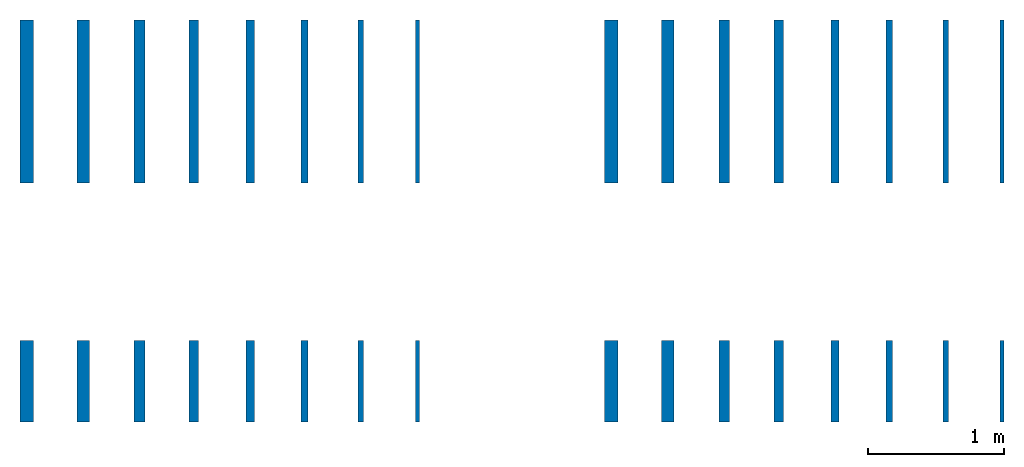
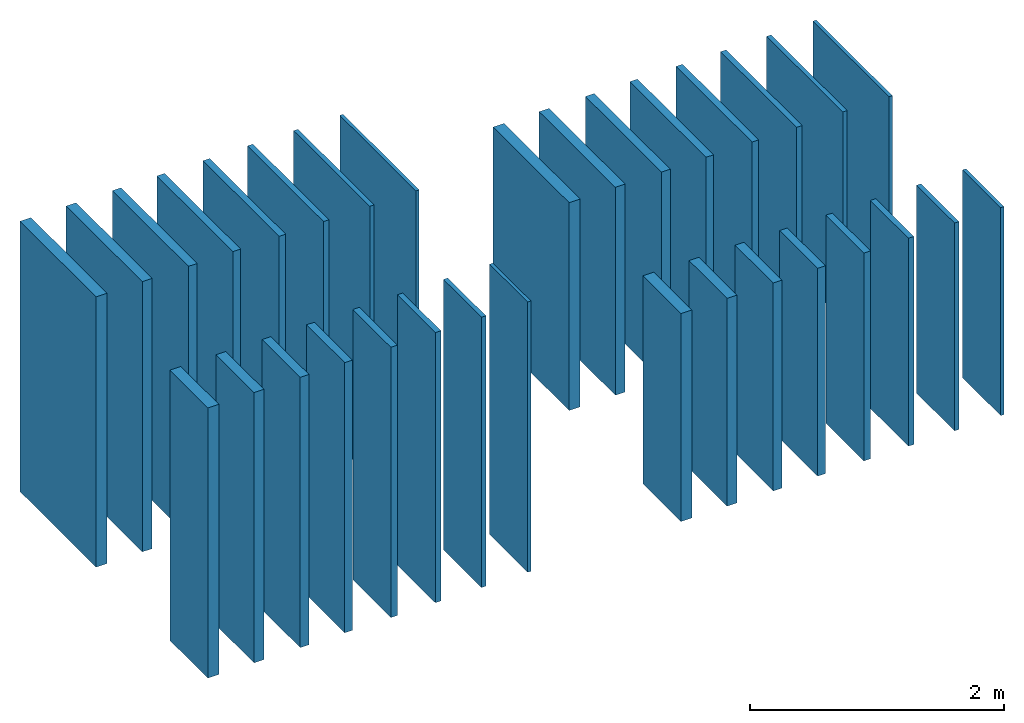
# One storey: 32 walls.
"""IFC2X3 building model written with IfcOpenShell, lengths in metres."""

from ifc_helpers import new_model, entity, si_unit, converted_unit, derived_unit, direction, frame, frame_2d, origin, place, context, subcontext, project, spatial, rectangle, extrude, material, layer, layer_set, layer_usage, type_object, element, save


model = new_model("IFC2X3")

# Units and contexts
model_context = context("Model", 3, precision=1e-05, world=origin(), true_north=direction((6.12303176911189e-17, 1.0)))
body_context = subcontext(model_context, "Body", "Model", "MODEL_VIEW")
ifc_project = project(units=[si_unit("LENGTHUNIT", "METRE"), si_unit("AREAUNIT", "SQUARE_METRE"), si_unit("VOLUMEUNIT", "CUBIC_METRE"), converted_unit("PLANEANGLEUNIT", "DEGREE", entity("IfcRatioMeasure", 0.0174532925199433), si_unit("PLANEANGLEUNIT", "RADIAN"), dimensions=[0, 0, 0, 0, 0, 0, 0]), si_unit("MASSUNIT", "GRAM", prefix="KILO"), derived_unit("MASSDENSITYUNIT", [(si_unit("MASSUNIT", "GRAM", prefix="KILO"), 1), (si_unit("LENGTHUNIT", "METRE"), -3)]), si_unit("TIMEUNIT", "SECOND"), si_unit("FREQUENCYUNIT", "HERTZ"), si_unit("THERMODYNAMICTEMPERATUREUNIT", "DEGREE_CELSIUS"), derived_unit("THERMALTRANSMITTANCEUNIT", [(si_unit("MASSUNIT", "GRAM", prefix="KILO"), 1), (si_unit("THERMODYNAMICTEMPERATUREUNIT", "KELVIN"), -1), (si_unit("TIMEUNIT", "SECOND"), -3)]), derived_unit("VOLUMETRICFLOWRATEUNIT", [(si_unit("LENGTHUNIT", "METRE"), 3), (si_unit("TIMEUNIT", "SECOND"), -1)]), si_unit("ELECTRICCURRENTUNIT", "AMPERE"), si_unit("ELECTRICVOLTAGEUNIT", "VOLT"), si_unit("POWERUNIT", "WATT"), si_unit("FORCEUNIT", "NEWTON", prefix="KILO"), si_unit("ILLUMINANCEUNIT", "LUX"), si_unit("LUMINOUSFLUXUNIT", "LUMEN"), si_unit("LUMINOUSINTENSITYUNIT", "CANDELA"), derived_unit("USERDEFINED", [(si_unit("MASSUNIT", "GRAM", prefix="KILO"), -1), (si_unit("LENGTHUNIT", "METRE"), -2), (si_unit("TIMEUNIT", "SECOND"), 3), (si_unit("LUMINOUSFLUXUNIT", "LUMEN"), 1)]), derived_unit("LINEARVELOCITYUNIT", [(si_unit("LENGTHUNIT", "METRE"), 1), (si_unit("TIMEUNIT", "SECOND"), -1)]), si_unit("PRESSUREUNIT", "PASCAL"), derived_unit("USERDEFINED", [(si_unit("LENGTHUNIT", "METRE"), -2), (si_unit("MASSUNIT", "GRAM", prefix="KILO"), 1), (si_unit("TIMEUNIT", "SECOND"), -2)])], contexts=[model_context])

# Site, building, storey
site_placement = place(None, origin())
site = spatial("IfcSite", under=ifc_project, at=site_placement, Name="Default", CompositionType="ELEMENT")
building_placement = place(site_placement, origin())
building = spatial("IfcBuilding", under=site, at=building_placement, CompositionType="ELEMENT")
storey_placement = place(building_placement, origin())
storey = spatial("IfcBuildingStorey", under=building, at=storey_placement, Name="Nivel 1", CompositionType="ELEMENT", Elevation=0.0)

# Walls
ifc_material = material(Name="VALERO Grafipol® TR-31")
ifc_layer_1 = layer(ifc_material, 0.1)
ifc_layer_set_1 = layer_set([ifc_layer_1], Name="Muro básico:Grafipol TR-31_2000x600x100mm")
ifc_layer_usage_1 = layer_usage(ifc_layer_set_1, "AXIS2", "NEGATIVE", 0.05)
wall_type_1 = type_object("IfcWallType", Name="Muro básico:Grafipol TR-31_2000x600x100mm", PredefinedType="STANDARD", material=ifc_layer_set_1)
wall_1_placement = place(storey_placement, frame((-0.269987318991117, 0.176603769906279, 0.0), z_axis=(0.0, 0.0, 1.0), x_axis=(0.0, 1.0, 0.0)))
element("IfcWallStandardCase", 1, at=wall_1_placement, inside=storey, type_object=wall_type_1, material=ifc_layer_usage_1, Name="Muro básico:Grafipol TR-31_2000x600x100mm", ObjectType="Muro básico:Grafipol TR-31_2000x600x100mm", context=body_context, shape_type="SweptSolid", body=[
    extrude(rectangle(XDim=0.6, YDim=0.1, at=frame_2d((0.3, 1.04083408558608e-17), x_axis=(-1.0, 0.0))), origin(), (0.0, 0.0, 1.0), 2.0),
])
ifc_layer_2 = layer(ifc_material, 0.09)
ifc_layer_set_2 = layer_set([ifc_layer_2], Name="Muro básico:Grafipol TR-31_2000x600x90mm")
ifc_layer_usage_2 = layer_usage(ifc_layer_set_2, "AXIS2", "NEGATIVE", 0.045)
wall_type_2 = type_object("IfcWallType", Name="Muro básico:Grafipol TR-31_2000x600x90mm", PredefinedType="STANDARD", material=ifc_layer_set_2)
wall_2_placement = place(storey_placement, frame((0.145012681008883, 0.176603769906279, 0.0), z_axis=(0.0, 0.0, 1.0), x_axis=(0.0, 1.0, 0.0)))
element("IfcWallStandardCase", 2, at=wall_2_placement, inside=storey, type_object=wall_type_2, material=ifc_layer_usage_2, Name="Muro básico:Grafipol TR-31_2000x600x90mm", ObjectType="Muro básico:Grafipol TR-31_2000x600x90mm", context=body_context, shape_type="SweptSolid", body=[
    extrude(rectangle(XDim=0.6, YDim=0.09, at=frame_2d((0.3, 0.0), x_axis=(-1.0, 0.0))), origin(), (0.0, 0.0, 1.0), 2.0),
])
ifc_layer_3 = layer(ifc_material, 0.08)
ifc_layer_set_3 = layer_set([ifc_layer_3], Name="Muro básico:Grafipol TR-31_2000x600x80mm")
ifc_layer_usage_3 = layer_usage(ifc_layer_set_3, "AXIS2", "NEGATIVE", 0.04)
wall_type_3 = type_object("IfcWallType", Name="Muro básico:Grafipol TR-31_2000x600x80mm", PredefinedType="STANDARD", material=ifc_layer_set_3)
wall_3_placement = place(storey_placement, frame((0.560012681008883, 0.176603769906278, 0.0), z_axis=(0.0, 0.0, 1.0), x_axis=(0.0, 1.0, 0.0)))
element("IfcWallStandardCase", 3, at=wall_3_placement, inside=storey, type_object=wall_type_3, material=ifc_layer_usage_3, Name="Muro básico:Grafipol TR-31_2000x600x80mm", ObjectType="Muro básico:Grafipol TR-31_2000x600x80mm", context=body_context, shape_type="SweptSolid", body=[
    extrude(rectangle(XDim=0.6, YDim=0.08, at=frame_2d((0.3, -6.93889390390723e-18), x_axis=(-1.0, 0.0))), origin(), (0.0, 0.0, 1.0), 2.0),
])
ifc_layer_4 = layer(ifc_material, 0.07)
ifc_layer_set_4 = layer_set([ifc_layer_4], Name="Muro básico:Grafipol TR-31_2000x600x70mm")
ifc_layer_usage_4 = layer_usage(ifc_layer_set_4, "AXIS2", "NEGATIVE", 0.035)
wall_type_4 = type_object("IfcWallType", Name="Muro básico:Grafipol TR-31_2000x600x70mm", PredefinedType="STANDARD", material=ifc_layer_set_4)
wall_4_placement = place(storey_placement, frame((0.960012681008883, 0.176603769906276, 0.0), z_axis=(0.0, 0.0, 1.0), x_axis=(0.0, 1.0, 0.0)))
element("IfcWallStandardCase", 4, at=wall_4_placement, inside=storey, type_object=wall_type_4, material=ifc_layer_usage_4, Name="Muro básico:Grafipol TR-31_2000x600x70mm", ObjectType="Muro básico:Grafipol TR-31_2000x600x70mm", context=body_context, shape_type="SweptSolid", body=[
    extrude(rectangle(XDim=0.6, YDim=0.0700000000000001, at=frame_2d((0.3, -6.93889390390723e-18), x_axis=(-1.0, 0.0))), origin(), (0.0, 0.0, 1.0), 2.0),
])
ifc_layer_5 = layer(ifc_material, 0.06)
ifc_layer_set_5 = layer_set([ifc_layer_5], Name="Muro básico:Grafipol TR-31_2000x600x60mm")
ifc_layer_usage_5 = layer_usage(ifc_layer_set_5, "AXIS2", "NEGATIVE", 0.03)
wall_type_5 = type_object("IfcWallType", Name="Muro básico:Grafipol TR-31_2000x600x60mm", PredefinedType="STANDARD", material=ifc_layer_set_5)
wall_5_placement = place(storey_placement, frame((1.37501268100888, 0.176603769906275, 0.0), z_axis=(0.0, 0.0, 1.0), x_axis=(0.0, 1.0, 0.0)))
element("IfcWallStandardCase", 5, at=wall_5_placement, inside=storey, type_object=wall_type_5, material=ifc_layer_usage_5, Name="Muro básico:Grafipol TR-31_2000x600x60mm", ObjectType="Muro básico:Grafipol TR-31_2000x600x60mm", context=body_context, shape_type="SweptSolid", body=[
    extrude(rectangle(XDim=0.6, YDim=0.0599999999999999, at=frame_2d((0.3, -7.28583859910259e-17), x_axis=(-1.0, 0.0))), origin(), (0.0, 0.0, 1.0), 2.0),
])
ifc_layer_6 = layer(ifc_material, 0.05)
ifc_layer_set_6 = layer_set([ifc_layer_6], Name="Muro básico:Grafipol TR-31_2000x600x50mm")
ifc_layer_usage_6 = layer_usage(ifc_layer_set_6, "AXIS2", "NEGATIVE", 0.025)
wall_type_6 = type_object("IfcWallType", Name="Muro básico:Grafipol TR-31_2000x600x50mm", PredefinedType="STANDARD", material=ifc_layer_set_6)
wall_6_placement = place(storey_placement, frame((1.77501268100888, 0.176603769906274, 0.0), z_axis=(0.0, 0.0, 1.0), x_axis=(0.0, 1.0, 0.0)))
element("IfcWallStandardCase", 6, at=wall_6_placement, inside=storey, type_object=wall_type_6, material=ifc_layer_usage_6, Name="Muro básico:Grafipol TR-31_2000x600x50mm", ObjectType="Muro básico:Grafipol TR-31_2000x600x50mm", context=body_context, shape_type="SweptSolid", body=[
    extrude(rectangle(XDim=0.6, YDim=0.05, at=frame_2d((0.3, -7.45931094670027e-17), x_axis=(-1.0, 0.0))), origin(), (0.0, 0.0, 1.0), 2.0),
])
ifc_layer_7 = layer(ifc_material, 0.04)
ifc_layer_set_7 = layer_set([ifc_layer_7], Name="Muro básico:Grafipol TR-31_2000x600x40mm")
ifc_layer_usage_7 = layer_usage(ifc_layer_set_7, "AXIS2", "NEGATIVE", 0.02)
wall_type_7 = type_object("IfcWallType", Name="Muro básico:Grafipol TR-31_2000x600x40mm", PredefinedType="STANDARD", material=ifc_layer_set_7)
wall_7_placement = place(storey_placement, frame((2.19001268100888, 0.176603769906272, 0.0), z_axis=(0.0, 0.0, 1.0), x_axis=(0.0, 1.0, 0.0)))
element("IfcWallStandardCase", 7, at=wall_7_placement, inside=storey, type_object=wall_type_7, material=ifc_layer_usage_7, Name="Muro básico:Grafipol TR-31_2000x600x40mm", ObjectType="Muro básico:Grafipol TR-31_2000x600x40mm", context=body_context, shape_type="SweptSolid", body=[
    extrude(rectangle(XDim=0.6, YDim=0.0400000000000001, at=frame_2d((0.3, -7.45931094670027e-17), x_axis=(-1.0, 0.0))), origin(), (0.0, 0.0, 1.0), 2.0),
])
ifc_layer_8 = layer(ifc_material, 0.03)
ifc_layer_set_8 = layer_set([ifc_layer_8], Name="Muro básico:Grafipol TR-31_2000x600x30mm")
ifc_layer_usage_8 = layer_usage(ifc_layer_set_8, "AXIS2", "NEGATIVE", 0.015)
wall_type_8 = type_object("IfcWallType", Name="Muro básico:Grafipol TR-31_2000x600x30mm", PredefinedType="STANDARD", material=ifc_layer_set_8)
wall_8_placement = place(storey_placement, frame((2.60501268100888, 0.176603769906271, 0.0), z_axis=(0.0, 0.0, 1.0), x_axis=(0.0, 1.0, 0.0)))
element("IfcWallStandardCase", 8, at=wall_8_placement, inside=storey, type_object=wall_type_8, material=ifc_layer_usage_8, Name="Muro básico:Grafipol TR-31_2000x600x30mm", ObjectType="Muro básico:Grafipol TR-31_2000x600x30mm", context=body_context, shape_type="SweptSolid", body=[
    extrude(rectangle(XDim=0.6, YDim=0.0299999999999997, at=frame_2d((0.3, -7.45931094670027e-17), x_axis=(-1.0, 0.0))), origin(), (0.0, 0.0, 1.0), 2.0),
])
ifc_layer_9 = layer(ifc_material, 0.1)
ifc_layer_set_9 = layer_set([ifc_layer_9], Name="Muro básico:Grafipol TR-31_2600x600x100mm")
ifc_layer_usage_9 = layer_usage(ifc_layer_set_9, "AXIS2", "NEGATIVE", 0.05)
wall_type_9 = type_object("IfcWallType", Name="Muro básico:Grafipol TR-31_2600x600x100mm", PredefinedType="STANDARD", material=ifc_layer_set_9)
wall_9_placement = place(storey_placement, frame((-4.57440857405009, 0.176603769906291, 0.0), z_axis=(0.0, 0.0, 1.0), x_axis=(0.0, 1.0, 0.0)))
element("IfcWallStandardCase", 9, at=wall_9_placement, inside=storey, type_object=wall_type_9, material=ifc_layer_usage_9, Name="Muro básico:Grafipol TR-31_2600x600x100mm", ObjectType="Muro básico:Grafipol TR-31_2600x600x100mm", context=body_context, shape_type="SweptSolid", body=[
    extrude(rectangle(XDim=0.6, YDim=0.1, at=frame_2d((0.3, -7.63278329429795e-17), x_axis=(-1.0, 0.0))), origin(), (0.0, 0.0, 1.0), 2.6),
])
ifc_layer_10 = layer(ifc_material, 0.09)
ifc_layer_set_10 = layer_set([ifc_layer_10], Name="Muro básico:Grafipol TR-31_2600x600x90mm")
ifc_layer_usage_10 = layer_usage(ifc_layer_set_10, "AXIS2", "NEGATIVE", 0.045)
wall_type_10 = type_object("IfcWallType", Name="Muro básico:Grafipol TR-31_2600x600x90mm", PredefinedType="STANDARD", material=ifc_layer_set_10)
wall_10_placement = place(storey_placement, frame((-4.15940857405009, 0.176603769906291, 0.0), z_axis=(0.0, 0.0, 1.0), x_axis=(0.0, 1.0, 0.0)))
element("IfcWallStandardCase", 10, at=wall_10_placement, inside=storey, type_object=wall_type_10, material=ifc_layer_usage_10, Name="Muro básico:Grafipol TR-31_2600x600x90mm", ObjectType="Muro básico:Grafipol TR-31_2600x600x90mm", context=body_context, shape_type="SweptSolid", body=[
    extrude(rectangle(XDim=0.6, YDim=0.0900000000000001, at=frame_2d((0.3, -7.63278329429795e-17), x_axis=(-1.0, 0.0))), origin(), (0.0, 0.0, 1.0), 2.6),
])
ifc_layer_11 = layer(ifc_material, 0.08)
ifc_layer_set_11 = layer_set([ifc_layer_11], Name="Muro básico:Grafipol TR-31_2600x600x80mm")
ifc_layer_usage_11 = layer_usage(ifc_layer_set_11, "AXIS2", "NEGATIVE", 0.04)
wall_type_11 = type_object("IfcWallType", Name="Muro básico:Grafipol TR-31_2600x600x80mm", PredefinedType="STANDARD", material=ifc_layer_set_11)
wall_11_placement = place(storey_placement, frame((-3.74440857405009, 0.17660376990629, 0.0), z_axis=(0.0, 0.0, 1.0), x_axis=(0.0, 1.0, 0.0)))
element("IfcWallStandardCase", 11, at=wall_11_placement, inside=storey, type_object=wall_type_11, material=ifc_layer_usage_11, Name="Muro básico:Grafipol TR-31_2600x600x80mm", ObjectType="Muro básico:Grafipol TR-31_2600x600x80mm", context=body_context, shape_type="SweptSolid", body=[
    extrude(rectangle(XDim=0.6, YDim=0.0800000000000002, at=frame_2d((0.3, -7.63278329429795e-17), x_axis=(-1.0, 0.0))), origin(), (0.0, 0.0, 1.0), 2.6),
])
ifc_layer_12 = layer(ifc_material, 0.07)
ifc_layer_set_12 = layer_set([ifc_layer_12], Name="Muro básico:Grafipol TR-31_2600x600x70mm")
ifc_layer_usage_12 = layer_usage(ifc_layer_set_12, "AXIS2", "NEGATIVE", 0.035)
wall_type_12 = type_object("IfcWallType", Name="Muro básico:Grafipol TR-31_2600x600x70mm", PredefinedType="STANDARD", material=ifc_layer_set_12)
wall_12_placement = place(storey_placement, frame((-3.34440857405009, 0.176603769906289, 0.0), z_axis=(0.0, 0.0, 1.0), x_axis=(0.0, 1.0, 0.0)))
element("IfcWallStandardCase", 12, at=wall_12_placement, inside=storey, type_object=wall_type_12, material=ifc_layer_usage_12, Name="Muro básico:Grafipol TR-31_2600x600x70mm", ObjectType="Muro básico:Grafipol TR-31_2600x600x70mm", context=body_context, shape_type="SweptSolid", body=[
    extrude(rectangle(XDim=0.6, YDim=0.0700000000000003, at=frame_2d((0.3, -7.28583859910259e-17), x_axis=(-1.0, 0.0))), origin(), (0.0, 0.0, 1.0), 2.6),
])
ifc_layer_13 = layer(ifc_material, 0.06)
ifc_layer_set_13 = layer_set([ifc_layer_13], Name="Muro básico:Grafipol TR-31_2600x600x60mm")
ifc_layer_usage_13 = layer_usage(ifc_layer_set_13, "AXIS2", "NEGATIVE", 0.03)
wall_type_13 = type_object("IfcWallType", Name="Muro básico:Grafipol TR-31_2600x600x60mm", PredefinedType="STANDARD", material=ifc_layer_set_13)
wall_13_placement = place(storey_placement, frame((-2.92940857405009, 0.176603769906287, 0.0), z_axis=(0.0, 0.0, 1.0), x_axis=(0.0, 1.0, 0.0)))
element("IfcWallStandardCase", 13, at=wall_13_placement, inside=storey, type_object=wall_type_13, material=ifc_layer_usage_13, Name="Muro básico:Grafipol TR-31_2600x600x60mm", ObjectType="Muro básico:Grafipol TR-31_2600x600x60mm", context=body_context, shape_type="SweptSolid", body=[
    extrude(rectangle(XDim=0.6, YDim=0.0600000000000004, at=frame_2d((0.3, -7.28583859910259e-17), x_axis=(-1.0, 0.0))), origin(), (0.0, 0.0, 1.0), 2.6),
])
ifc_layer_14 = layer(ifc_material, 0.05)
ifc_layer_set_14 = layer_set([ifc_layer_14], Name="Muro básico:Grafipol TR-31_2600x600x50mm")
ifc_layer_usage_14 = layer_usage(ifc_layer_set_14, "AXIS2", "NEGATIVE", 0.025)
wall_type_14 = type_object("IfcWallType", Name="Muro básico:Grafipol TR-31_2600x600x50mm", PredefinedType="STANDARD", material=ifc_layer_set_14)
wall_14_placement = place(storey_placement, frame((-2.52940857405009, 0.176603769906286, 0.0), z_axis=(0.0, 0.0, 1.0), x_axis=(0.0, 1.0, 0.0)))
element("IfcWallStandardCase", 14, at=wall_14_placement, inside=storey, type_object=wall_type_14, material=ifc_layer_usage_14, Name="Muro básico:Grafipol TR-31_2600x600x50mm", ObjectType="Muro básico:Grafipol TR-31_2600x600x50mm", context=body_context, shape_type="SweptSolid", body=[
    extrude(rectangle(XDim=0.6, YDim=0.0500000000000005, at=frame_2d((0.3, -7.28583859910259e-17), x_axis=(-1.0, 0.0))), origin(), (0.0, 0.0, 1.0), 2.6),
])
ifc_layer_15 = layer(ifc_material, 0.04)
ifc_layer_set_15 = layer_set([ifc_layer_15], Name="Muro básico:Grafipol TR-31_2600x600x40mm")
ifc_layer_usage_15 = layer_usage(ifc_layer_set_15, "AXIS2", "NEGATIVE", 0.02)
wall_type_15 = type_object("IfcWallType", Name="Muro básico:Grafipol TR-31_2600x600x40mm", PredefinedType="STANDARD", material=ifc_layer_set_15)
wall_15_placement = place(storey_placement, frame((-2.11440857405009, 0.176603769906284, 0.0), z_axis=(0.0, 0.0, 1.0), x_axis=(0.0, 1.0, 0.0)))
element("IfcWallStandardCase", 15, at=wall_15_placement, inside=storey, type_object=wall_type_15, material=ifc_layer_usage_15, Name="Muro básico:Grafipol TR-31_2600x600x40mm", ObjectType="Muro básico:Grafipol TR-31_2600x600x40mm", context=body_context, shape_type="SweptSolid", body=[
    extrude(rectangle(XDim=0.6, YDim=0.0400000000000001, at=frame_2d((0.3, -7.45931094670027e-17), x_axis=(-1.0, 0.0))), origin(), (0.0, 0.0, 1.0), 2.6),
])
ifc_layer_16 = layer(ifc_material, 0.03)
ifc_layer_set_16 = layer_set([ifc_layer_16], Name="Muro básico:Grafipol TR-31_2600x600x30mm")
ifc_layer_usage_16 = layer_usage(ifc_layer_set_16, "AXIS2", "NEGATIVE", 0.015)
wall_type_16 = type_object("IfcWallType", Name="Muro básico:Grafipol TR-31_2600x600x30mm", PredefinedType="STANDARD", material=ifc_layer_set_16)
wall_16_placement = place(storey_placement, frame((-1.69940857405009, 0.176603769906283, 0.0), z_axis=(0.0, 0.0, 1.0), x_axis=(0.0, 1.0, 0.0)))
element("IfcWallStandardCase", 16, at=wall_16_placement, inside=storey, type_object=wall_type_16, material=ifc_layer_usage_16, Name="Muro básico:Grafipol TR-31_2600x600x30mm", ObjectType="Muro básico:Grafipol TR-31_2600x600x30mm", context=body_context, shape_type="SweptSolid", body=[
    extrude(rectangle(XDim=0.6, YDim=0.0300000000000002, at=frame_2d((0.3, -7.45931094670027e-17), x_axis=(-1.0, 0.0))), origin(), (0.0, 0.0, 1.0), 2.6),
])
ifc_layer_17 = layer(ifc_material, 0.1)
ifc_layer_set_17 = layer_set([ifc_layer_17], Name="Muro básico:Grafipol TR-31_2000x1200x100mm")
ifc_layer_usage_17 = layer_usage(ifc_layer_set_17, "AXIS2", "NEGATIVE", 0.05)
wall_type_17 = type_object("IfcWallType", Name="Muro básico:Grafipol TR-31_2000x1200x100mm", PredefinedType="STANDARD", material=ifc_layer_set_17)
wall_17_placement = place(storey_placement, frame((-0.269987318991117, 1.93757096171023, 0.0), z_axis=(0.0, 0.0, 1.0), x_axis=(0.0, 1.0, 0.0)))
element("IfcWallStandardCase", 17, at=wall_17_placement, inside=storey, type_object=wall_type_17, material=ifc_layer_usage_17, Name="Muro básico:Grafipol TR-31_2000x1200x100mm", ObjectType="Muro básico:Grafipol TR-31_2000x1200x100mm", context=body_context, shape_type="SweptSolid", body=[
    extrude(rectangle(XDim=1.2, YDim=0.1, at=frame_2d((0.6, -1.04083408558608e-17), x_axis=(-1.0, 0.0))), origin(), (0.0, 0.0, 1.0), 2.0),
])
ifc_layer_18 = layer(ifc_material, 0.09)
ifc_layer_set_18 = layer_set([ifc_layer_18], Name="Muro básico:Grafipol TR-31_2000x1200x90mm")
ifc_layer_usage_18 = layer_usage(ifc_layer_set_18, "AXIS2", "NEGATIVE", 0.045)
wall_type_18 = type_object("IfcWallType", Name="Muro básico:Grafipol TR-31_2000x1200x90mm", PredefinedType="STANDARD", material=ifc_layer_set_18)
wall_18_placement = place(storey_placement, frame((0.145012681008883, 1.93757096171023, 0.0), z_axis=(0.0, 0.0, 1.0), x_axis=(0.0, 1.0, 0.0)))
element("IfcWallStandardCase", 18, at=wall_18_placement, inside=storey, type_object=wall_type_18, material=ifc_layer_usage_18, Name="Muro básico:Grafipol TR-31_2000x1200x90mm", ObjectType="Muro básico:Grafipol TR-31_2000x1200x90mm", context=body_context, shape_type="SweptSolid", body=[
    extrude(rectangle(XDim=1.2, YDim=0.09, at=frame_2d((0.6, 3.46944695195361e-18), x_axis=(-1.0, 0.0))), origin(), (0.0, 0.0, 1.0), 2.0),
])
ifc_layer_19 = layer(ifc_material, 0.08)
ifc_layer_set_19 = layer_set([ifc_layer_19], Name="Muro básico:Grafipol TR-31_2000x1200x80mm")
ifc_layer_usage_19 = layer_usage(ifc_layer_set_19, "AXIS2", "NEGATIVE", 0.04)
wall_type_19 = type_object("IfcWallType", Name="Muro básico:Grafipol TR-31_2000x1200x80mm", PredefinedType="STANDARD", material=ifc_layer_set_19)
wall_19_placement = place(storey_placement, frame((0.560012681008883, 1.93757096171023, 0.0), z_axis=(0.0, 0.0, 1.0), x_axis=(0.0, 1.0, 0.0)))
element("IfcWallStandardCase", 19, at=wall_19_placement, inside=storey, type_object=wall_type_19, material=ifc_layer_usage_19, Name="Muro básico:Grafipol TR-31_2000x1200x80mm", ObjectType="Muro básico:Grafipol TR-31_2000x1200x80mm", context=body_context, shape_type="SweptSolid", body=[
    extrude(rectangle(XDim=1.2, YDim=0.08, at=frame_2d((0.6, -1.04083408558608e-17), x_axis=(-1.0, 0.0))), origin(), (0.0, 0.0, 1.0), 2.0),
])
ifc_layer_20 = layer(ifc_material, 0.07)
ifc_layer_set_20 = layer_set([ifc_layer_20], Name="Muro básico:Grafipol TR-31_2000x1200x70mm")
ifc_layer_usage_20 = layer_usage(ifc_layer_set_20, "AXIS2", "NEGATIVE", 0.035)
wall_type_20 = type_object("IfcWallType", Name="Muro básico:Grafipol TR-31_2000x1200x70mm", PredefinedType="STANDARD", material=ifc_layer_set_20)
wall_20_placement = place(storey_placement, frame((0.960012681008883, 1.93757096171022, 0.0), z_axis=(0.0, 0.0, 1.0), x_axis=(0.0, 1.0, 0.0)))
element("IfcWallStandardCase", 20, at=wall_20_placement, inside=storey, type_object=wall_type_20, material=ifc_layer_usage_20, Name="Muro básico:Grafipol TR-31_2000x1200x70mm", ObjectType="Muro básico:Grafipol TR-31_2000x1200x70mm", context=body_context, shape_type="SweptSolid", body=[
    extrude(rectangle(XDim=1.2, YDim=0.0700000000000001, at=frame_2d((0.6, -1.38777878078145e-17), x_axis=(-1.0, 0.0))), origin(), (0.0, 0.0, 1.0), 2.0),
])
ifc_layer_21 = layer(ifc_material, 0.06)
ifc_layer_set_21 = layer_set([ifc_layer_21], Name="Muro básico:Grafipol TR-31_2000x1200x60mm")
ifc_layer_usage_21 = layer_usage(ifc_layer_set_21, "AXIS2", "NEGATIVE", 0.03)
wall_type_21 = type_object("IfcWallType", Name="Muro básico:Grafipol TR-31_2000x1200x60mm", PredefinedType="STANDARD", material=ifc_layer_set_21)
wall_21_placement = place(storey_placement, frame((1.37501268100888, 1.93757096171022, 0.0), z_axis=(0.0, 0.0, 1.0), x_axis=(0.0, 1.0, 0.0)))
element("IfcWallStandardCase", 21, at=wall_21_placement, inside=storey, type_object=wall_type_21, material=ifc_layer_usage_21, Name="Muro básico:Grafipol TR-31_2000x1200x60mm", ObjectType="Muro básico:Grafipol TR-31_2000x1200x60mm", context=body_context, shape_type="SweptSolid", body=[
    extrude(rectangle(XDim=1.2, YDim=0.0599999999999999, at=frame_2d((0.6, -1.38777878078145e-17), x_axis=(-1.0, 0.0))), origin(), (0.0, 0.0, 1.0), 2.0),
])
ifc_layer_22 = layer(ifc_material, 0.05)
ifc_layer_set_22 = layer_set([ifc_layer_22], Name="Muro básico:Grafipol TR-31_2000x1200x50mm")
ifc_layer_usage_22 = layer_usage(ifc_layer_set_22, "AXIS2", "NEGATIVE", 0.025)
wall_type_22 = type_object("IfcWallType", Name="Muro básico:Grafipol TR-31_2000x1200x50mm", PredefinedType="STANDARD", material=ifc_layer_set_22)
wall_22_placement = place(storey_placement, frame((1.77501268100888, 1.93757096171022, 0.0), z_axis=(0.0, 0.0, 1.0), x_axis=(0.0, 1.0, 0.0)))
element("IfcWallStandardCase", 22, at=wall_22_placement, inside=storey, type_object=wall_type_22, material=ifc_layer_usage_22, Name="Muro básico:Grafipol TR-31_2000x1200x50mm", ObjectType="Muro básico:Grafipol TR-31_2000x1200x50mm", context=body_context, shape_type="SweptSolid", body=[
    extrude(rectangle(XDim=1.2, YDim=0.05, at=frame_2d((0.6, -1.38777878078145e-17), x_axis=(-1.0, 0.0))), origin(), (0.0, 0.0, 1.0), 2.0),
])
ifc_layer_23 = layer(ifc_material, 0.04)
ifc_layer_set_23 = layer_set([ifc_layer_23], Name="Muro básico:Grafipol TR-31_2000x1200x40mm")
ifc_layer_usage_23 = layer_usage(ifc_layer_set_23, "AXIS2", "NEGATIVE", 0.02)
wall_type_23 = type_object("IfcWallType", Name="Muro básico:Grafipol TR-31_2000x1200x40mm", PredefinedType="STANDARD", material=ifc_layer_set_23)
wall_23_placement = place(storey_placement, frame((2.19001268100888, 1.93757096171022, 0.0), z_axis=(0.0, 0.0, 1.0), x_axis=(0.0, 1.0, 0.0)))
element("IfcWallStandardCase", 23, at=wall_23_placement, inside=storey, type_object=wall_type_23, material=ifc_layer_usage_23, Name="Muro básico:Grafipol TR-31_2000x1200x40mm", ObjectType="Muro básico:Grafipol TR-31_2000x1200x40mm", context=body_context, shape_type="SweptSolid", body=[
    extrude(rectangle(XDim=1.2, YDim=0.0400000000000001, at=frame_2d((0.6, -1.56125112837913e-17), x_axis=(-1.0, 0.0))), origin(), (0.0, 0.0, 1.0), 2.0),
])
ifc_layer_24 = layer(ifc_material, 0.03)
ifc_layer_set_24 = layer_set([ifc_layer_24], Name="Muro básico:Grafipol TR-31_2000x1200x30mm")
ifc_layer_usage_24 = layer_usage(ifc_layer_set_24, "AXIS2", "NEGATIVE", 0.015)
wall_type_24 = type_object("IfcWallType", Name="Muro básico:Grafipol TR-31_2000x1200x30mm", PredefinedType="STANDARD", material=ifc_layer_set_24)
wall_24_placement = place(storey_placement, frame((2.60501268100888, 1.93757096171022, 0.0), z_axis=(0.0, 0.0, 1.0), x_axis=(0.0, 1.0, 0.0)))
element("IfcWallStandardCase", 24, at=wall_24_placement, inside=storey, type_object=wall_type_24, material=ifc_layer_usage_24, Name="Muro básico:Grafipol TR-31_2000x1200x30mm", ObjectType="Muro básico:Grafipol TR-31_2000x1200x30mm", context=body_context, shape_type="SweptSolid", body=[
    extrude(rectangle(XDim=1.2, YDim=0.0299999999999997, at=frame_2d((0.6, -1.50053580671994e-16), x_axis=(-1.0, 0.0))), origin(), (0.0, 0.0, 1.0), 2.0),
])
ifc_layer_25 = layer(ifc_material, 0.1)
ifc_layer_set_25 = layer_set([ifc_layer_25], Name="Muro básico:Grafipol TR-31_2600x1200x100mm")
ifc_layer_usage_25 = layer_usage(ifc_layer_set_25, "AXIS2", "NEGATIVE", 0.05)
wall_type_25 = type_object("IfcWallType", Name="Muro básico:Grafipol TR-31_2600x1200x100mm", PredefinedType="STANDARD", material=ifc_layer_set_25)
wall_25_placement = place(storey_placement, frame((-4.57440857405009, 1.93757096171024, 0.0), z_axis=(0.0, 0.0, 1.0), x_axis=(0.0, 1.0, 0.0)))
element("IfcWallStandardCase", 25, at=wall_25_placement, inside=storey, type_object=wall_type_25, material=ifc_layer_usage_25, Name="Muro básico:Grafipol TR-31_2600x1200x100mm", ObjectType="Muro básico:Grafipol TR-31_2600x1200x100mm", context=body_context, shape_type="SweptSolid", body=[
    extrude(rectangle(XDim=1.2, YDim=0.1, at=frame_2d((0.6, -1.49186218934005e-16), x_axis=(-1.0, 0.0))), origin(), (0.0, 0.0, 1.0), 2.6),
])
ifc_layer_26 = layer(ifc_material, 0.09)
ifc_layer_set_26 = layer_set([ifc_layer_26], Name="Muro básico:Grafipol TR-31_2600x1200x90mm")
ifc_layer_usage_26 = layer_usage(ifc_layer_set_26, "AXIS2", "NEGATIVE", 0.045)
wall_type_26 = type_object("IfcWallType", Name="Muro básico:Grafipol TR-31_2600x1200x90mm", PredefinedType="STANDARD", material=ifc_layer_set_26)
wall_26_placement = place(storey_placement, frame((-4.15940857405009, 1.93757096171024, 0.0), z_axis=(0.0, 0.0, 1.0), x_axis=(0.0, 1.0, 0.0)))
element("IfcWallStandardCase", 26, at=wall_26_placement, inside=storey, type_object=wall_type_26, material=ifc_layer_usage_26, Name="Muro básico:Grafipol TR-31_2600x1200x90mm", ObjectType="Muro básico:Grafipol TR-31_2600x1200x90mm", context=body_context, shape_type="SweptSolid", body=[
    extrude(rectangle(XDim=1.2, YDim=0.0900000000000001, at=frame_2d((0.6, -1.49186218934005e-16), x_axis=(-1.0, 0.0))), origin(), (0.0, 0.0, 1.0), 2.6),
])
ifc_layer_27 = layer(ifc_material, 0.08)
ifc_layer_set_27 = layer_set([ifc_layer_27], Name="Muro básico:Grafipol TR-31_2600x1200x80mm")
ifc_layer_usage_27 = layer_usage(ifc_layer_set_27, "AXIS2", "NEGATIVE", 0.04)
wall_type_27 = type_object("IfcWallType", Name="Muro básico:Grafipol TR-31_2600x1200x80mm", PredefinedType="STANDARD", material=ifc_layer_set_27)
wall_27_placement = place(storey_placement, frame((-3.74440857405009, 1.93757096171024, 0.0), z_axis=(0.0, 0.0, 1.0), x_axis=(0.0, 1.0, 0.0)))
element("IfcWallStandardCase", 27, at=wall_27_placement, inside=storey, type_object=wall_type_27, material=ifc_layer_usage_27, Name="Muro básico:Grafipol TR-31_2600x1200x80mm", ObjectType="Muro básico:Grafipol TR-31_2600x1200x80mm", context=body_context, shape_type="SweptSolid", body=[
    extrude(rectangle(XDim=1.2, YDim=0.0800000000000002, at=frame_2d((0.6, -1.49186218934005e-16), x_axis=(-1.0, 0.0))), origin(), (0.0, 0.0, 1.0), 2.6),
])
ifc_layer_28 = layer(ifc_material, 0.07)
ifc_layer_set_28 = layer_set([ifc_layer_28], Name="Muro básico:Grafipol TR-31_2600x1200x70mm")
ifc_layer_usage_28 = layer_usage(ifc_layer_set_28, "AXIS2", "NEGATIVE", 0.035)
wall_type_28 = type_object("IfcWallType", Name="Muro básico:Grafipol TR-31_2600x1200x70mm", PredefinedType="STANDARD", material=ifc_layer_set_28)
wall_28_placement = place(storey_placement, frame((-3.34440857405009, 1.93757096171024, 0.0), z_axis=(0.0, 0.0, 1.0), x_axis=(0.0, 1.0, 0.0)))
element("IfcWallStandardCase", 28, at=wall_28_placement, inside=storey, type_object=wall_type_28, material=ifc_layer_usage_28, Name="Muro básico:Grafipol TR-31_2600x1200x70mm", ObjectType="Muro básico:Grafipol TR-31_2600x1200x70mm", context=body_context, shape_type="SweptSolid", body=[
    extrude(rectangle(XDim=1.2, YDim=0.0700000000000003, at=frame_2d((0.6, -1.49186218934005e-16), x_axis=(-1.0, 0.0))), origin(), (0.0, 0.0, 1.0), 2.6),
])
ifc_layer_29 = layer(ifc_material, 0.06)
ifc_layer_set_29 = layer_set([ifc_layer_29], Name="Muro básico:Grafipol TR-31_2600x1200x60mm")
ifc_layer_usage_29 = layer_usage(ifc_layer_set_29, "AXIS2", "NEGATIVE", 0.03)
wall_type_29 = type_object("IfcWallType", Name="Muro básico:Grafipol TR-31_2600x1200x60mm", PredefinedType="STANDARD", material=ifc_layer_set_29)
wall_29_placement = place(storey_placement, frame((-2.92940857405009, 1.93757096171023, 0.0), z_axis=(0.0, 0.0, 1.0), x_axis=(0.0, 1.0, 0.0)))
element("IfcWallStandardCase", 29, at=wall_29_placement, inside=storey, type_object=wall_type_29, material=ifc_layer_usage_29, Name="Muro básico:Grafipol TR-31_2600x1200x60mm", ObjectType="Muro básico:Grafipol TR-31_2600x1200x60mm", context=body_context, shape_type="SweptSolid", body=[
    extrude(rectangle(XDim=1.2, YDim=0.0600000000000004, at=frame_2d((0.6, -1.49186218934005e-16), x_axis=(-1.0, 0.0))), origin(), (0.0, 0.0, 1.0), 2.6),
])
ifc_layer_30 = layer(ifc_material, 0.05)
ifc_layer_set_30 = layer_set([ifc_layer_30], Name="Muro básico:Grafipol TR-31_2600x1200x50mm")
ifc_layer_usage_30 = layer_usage(ifc_layer_set_30, "AXIS2", "NEGATIVE", 0.025)
wall_type_30 = type_object("IfcWallType", Name="Muro básico:Grafipol TR-31_2600x1200x50mm", PredefinedType="STANDARD", material=ifc_layer_set_30)
wall_30_placement = place(storey_placement, frame((-2.52940857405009, 1.93757096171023, 0.0), z_axis=(0.0, 0.0, 1.0), x_axis=(0.0, 1.0, 0.0)))
element("IfcWallStandardCase", 30, at=wall_30_placement, inside=storey, type_object=wall_type_30, material=ifc_layer_usage_30, Name="Muro básico:Grafipol TR-31_2600x1200x50mm", ObjectType="Muro básico:Grafipol TR-31_2600x1200x50mm", context=body_context, shape_type="SweptSolid", body=[
    extrude(rectangle(XDim=1.2, YDim=0.0500000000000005, at=frame_2d((0.6, -1.49186218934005e-16), x_axis=(-1.0, 0.0))), origin(), (0.0, 0.0, 1.0), 2.6),
])
ifc_layer_31 = layer(ifc_material, 0.04)
ifc_layer_set_31 = layer_set([ifc_layer_31], Name="Muro básico:Grafipol TR-31_2600x1200x40mm")
ifc_layer_usage_31 = layer_usage(ifc_layer_set_31, "AXIS2", "NEGATIVE", 0.02)
wall_type_31 = type_object("IfcWallType", Name="Muro básico:Grafipol TR-31_2600x1200x40mm", PredefinedType="STANDARD", material=ifc_layer_set_31)
wall_31_placement = place(storey_placement, frame((-2.11440857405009, 1.93757096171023, 0.0), z_axis=(0.0, 0.0, 1.0), x_axis=(0.0, 1.0, 0.0)))
element("IfcWallStandardCase", 31, at=wall_31_placement, inside=storey, type_object=wall_type_31, material=ifc_layer_usage_31, Name="Muro básico:Grafipol TR-31_2600x1200x40mm", ObjectType="Muro básico:Grafipol TR-31_2600x1200x40mm", context=body_context, shape_type="SweptSolid", body=[
    extrude(rectangle(XDim=1.2, YDim=0.0400000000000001, at=frame_2d((0.6, -1.56125112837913e-17), x_axis=(-1.0, 0.0))), origin(), (0.0, 0.0, 1.0), 2.6),
])
ifc_layer_32 = layer(ifc_material, 0.03)
ifc_layer_set_32 = layer_set([ifc_layer_32], Name="Muro básico:Grafipol TR-31_2600x1200x30mm")
ifc_layer_usage_32 = layer_usage(ifc_layer_set_32, "AXIS2", "NEGATIVE", 0.015)
wall_type_32 = type_object("IfcWallType", Name="Muro básico:Grafipol TR-31_2600x1200x30mm", PredefinedType="STANDARD", material=ifc_layer_set_32)
wall_32_placement = place(storey_placement, frame((-1.69940857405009, 1.93757096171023, 0.0), z_axis=(0.0, 0.0, 1.0), x_axis=(0.0, 1.0, 0.0)))
element("IfcWallStandardCase", 32, at=wall_32_placement, inside=storey, type_object=wall_type_32, material=ifc_layer_usage_32, Name="Muro básico:Grafipol TR-31_2600x1200x30mm", ObjectType="Muro básico:Grafipol TR-31_2600x1200x30mm", context=body_context, shape_type="SweptSolid", body=[
    extrude(rectangle(XDim=1.2, YDim=0.0300000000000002, at=frame_2d((0.6, -1.47451495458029e-17), x_axis=(-1.0, 0.0))), origin(), (0.0, 0.0, 1.0), 2.6),
])

save(model, "model.ifc")
